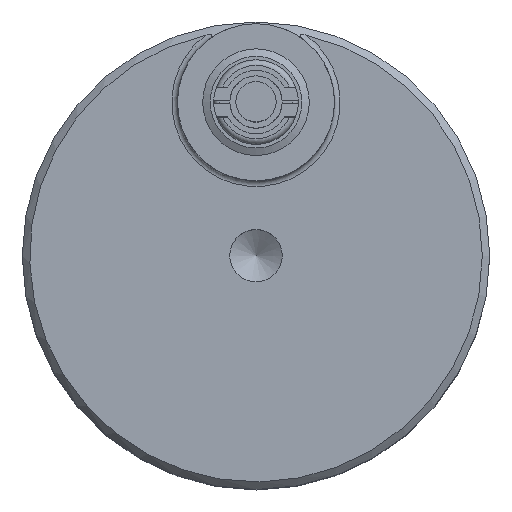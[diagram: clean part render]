
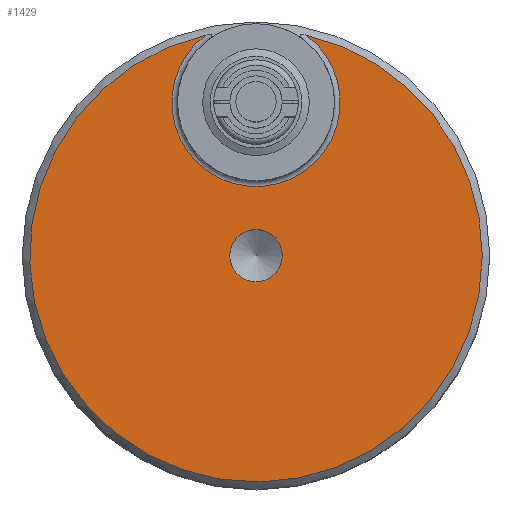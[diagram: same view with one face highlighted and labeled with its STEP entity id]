
A CAD part, top view. The second image highlights one B-rep face of the part: STEP entity #1429.
In plain terms, the highlighted planar face has unit normal (0, 0, 1).
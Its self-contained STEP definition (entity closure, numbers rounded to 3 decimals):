
#96=FACE_BOUND('',#514,.T.);
#119=PLANE('',#1611);
#406=FACE_OUTER_BOUND('',#513,.T.);
#513=EDGE_LOOP('',(#1128,#1129,#1130));
#514=EDGE_LOOP('',(#1131));
#610=CIRCLE('',#1575,22.5);
#627=CIRCLE('',#1606,60.5);
#630=CIRCLE('',#1609,60.5);
#631=CIRCLE('',#1612,7.011);
#707=VERTEX_POINT('',#2373);
#708=VERTEX_POINT('',#2394);
#727=VERTEX_POINT('',#2485);
#730=VERTEX_POINT('',#2496);
#843=EDGE_CURVE('',#707,#708,#610,.T.);
#872=EDGE_CURVE('',#708,#727,#627,.T.);
#876=EDGE_CURVE('',#727,#707,#630,.T.);
#878=EDGE_CURVE('',#730,#730,#631,.T.);
#1128=ORIENTED_EDGE('',*,*,#843,.F.);
#1129=ORIENTED_EDGE('',*,*,#876,.F.);
#1130=ORIENTED_EDGE('',*,*,#872,.F.);
#1131=ORIENTED_EDGE('',*,*,#878,.T.);
#1429=ADVANCED_FACE('',(#406,#96),#119,.T.);
#1575=AXIS2_PLACEMENT_3D('',#2395,#1830,#1831);
#1606=AXIS2_PLACEMENT_3D('',#2486,#1901,#1902);
#1609=AXIS2_PLACEMENT_3D('',#2492,#1908,#1909);
#1611=AXIS2_PLACEMENT_3D('',#2495,#1913,#1914);
#1612=AXIS2_PLACEMENT_3D('',#2497,#1915,#1916);
#1830=DIRECTION('center_axis',(0.,0.,1.));
#1831=DIRECTION('ref_axis',(0.,-1.,0.));
#1901=DIRECTION('center_axis',(0.,0.,-1.));
#1902=DIRECTION('ref_axis',(-1.,0.,0.));
#1908=DIRECTION('center_axis',(0.,0.,-1.));
#1909=DIRECTION('ref_axis',(-1.,0.,0.));
#1913=DIRECTION('center_axis',(0.,0.,1.));
#1914=DIRECTION('ref_axis',(1.,0.,0.));
#1915=DIRECTION('center_axis',(0.,0.,-1.));
#1916=DIRECTION('ref_axis',(1.,0.,0.));
#2373=CARTESIAN_POINT('',(-13.549,58.963,80.));
#2394=CARTESIAN_POINT('',(13.549,58.963,80.));
#2395=CARTESIAN_POINT('Origin',(0.,41.,80.));
#2485=CARTESIAN_POINT('',(60.5,0.,80.));
#2486=CARTESIAN_POINT('Origin',(0.,0.,80.));
#2492=CARTESIAN_POINT('Origin',(0.,0.,80.));
#2495=CARTESIAN_POINT('Origin',(0.,0.,80.));
#2496=CARTESIAN_POINT('',(-7.011,0.,80.));
#2497=CARTESIAN_POINT('Origin',(0.,0.,80.));
